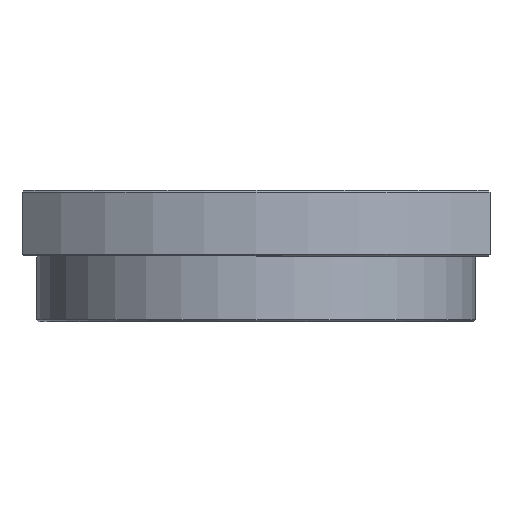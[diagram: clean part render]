
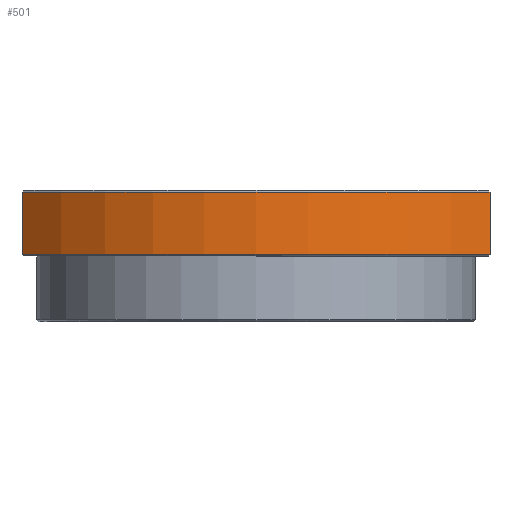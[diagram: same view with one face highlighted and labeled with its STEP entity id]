
A CAD part, left-side view. The second image highlights one B-rep face of the part: STEP entity #501.
In plain terms, the highlighted cylindrical face has radius 88 mm (diameter 176 mm), a partial arc.
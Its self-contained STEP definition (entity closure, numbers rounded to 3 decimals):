
#131 = AXIS2_PLACEMENT_3D ( 'NONE', #1481, #1482, #1483 ) ;
#282 = CYLINDRICAL_SURFACE ( 'NONE', #319, 88. ) ;
#312 = FACE_OUTER_BOUND ( 'NONE', #1080, .T. ) ;
#319 = AXIS2_PLACEMENT_3D ( 'NONE', #2901, #2902, #2903 ) ;
#501 = ADVANCED_FACE ( 'NONE', ( #312 ), #282, .T. ) ;
#593 = EDGE_CURVE ( 'NONE', #2437, #2431, #758, .T. ) ;
#670 = EDGE_CURVE ( 'NONE', #2437, #2430, #1716, .T. ) ;
#688 = EDGE_CURVE ( 'NONE', #2432, #2430, #815, .T. ) ;
#700 = EDGE_CURVE ( 'NONE', #2432, #2431, #1808, .T. ) ;
#758 = CIRCLE ( 'NONE', #131, 88. ) ;
#815 = CIRCLE ( 'NONE', #2074, 88. ) ;
#1080 = EDGE_LOOP ( 'NONE', ( #1224, #1226, #1225, #1227 ) ) ;
#1224 = ORIENTED_EDGE ( 'NONE', *, *, #700, .F. ) ;
#1225 = ORIENTED_EDGE ( 'NONE', *, *, #670, .F. ) ;
#1226 = ORIENTED_EDGE ( 'NONE', *, *, #688, .T. ) ;
#1227 = ORIENTED_EDGE ( 'NONE', *, *, #593, .T. ) ;
#1481 = CARTESIAN_POINT ( 'NONE',  ( 0., 0., 17.5 ) ) ;
#1482 = DIRECTION ( 'NONE',  ( 0., 0., -1. ) ) ;
#1483 = DIRECTION ( 'NONE',  ( 0., 1., 0. ) ) ;
#1716 = LINE ( 'NONE', #1717, #2042 ) ;
#1717 = CARTESIAN_POINT ( 'NONE',  ( -60.399, -64., 18. ) ) ;
#1718 = DIRECTION ( 'NONE',  ( 0., 0., -1. ) ) ;
#1768 = CARTESIAN_POINT ( 'NONE',  ( 0., 0., 0.5 ) ) ;
#1772 = DIRECTION ( 'NONE',  ( 0., 0., 1. ) ) ;
#1773 = DIRECTION ( 'NONE',  ( 0., -1., 0. ) ) ;
#1808 = LINE ( 'NONE', #1809, #2091 ) ;
#1809 = CARTESIAN_POINT ( 'NONE',  ( -60.399, 64., 18. ) ) ;
#1810 = DIRECTION ( 'NONE',  ( 0., 0., 1. ) ) ;
#2042 = VECTOR ( 'NONE', #1718, 1000. ) ;
#2074 = AXIS2_PLACEMENT_3D ( 'NONE', #1768, #1772, #1773 ) ;
#2091 = VECTOR ( 'NONE', #1810, 1000. ) ;
#2297 = CARTESIAN_POINT ( 'NONE',  ( -60.399, -64., 0.5 ) ) ;
#2298 = CARTESIAN_POINT ( 'NONE',  ( -60.399, 64., 17.5 ) ) ;
#2299 = CARTESIAN_POINT ( 'NONE',  ( -60.399, 64., 0.5 ) ) ;
#2304 = CARTESIAN_POINT ( 'NONE',  ( -60.399, -64., 17.5 ) ) ;
#2430 = VERTEX_POINT ( 'NONE', #2297 ) ;
#2431 = VERTEX_POINT ( 'NONE', #2298 ) ;
#2432 = VERTEX_POINT ( 'NONE', #2299 ) ;
#2437 = VERTEX_POINT ( 'NONE', #2304 ) ;
#2901 = CARTESIAN_POINT ( 'NONE',  ( 0., 0., 18. ) ) ;
#2902 = DIRECTION ( 'NONE',  ( 0., 0., 1. ) ) ;
#2903 = DIRECTION ( 'NONE',  ( 0., -1., 0. ) ) ;
